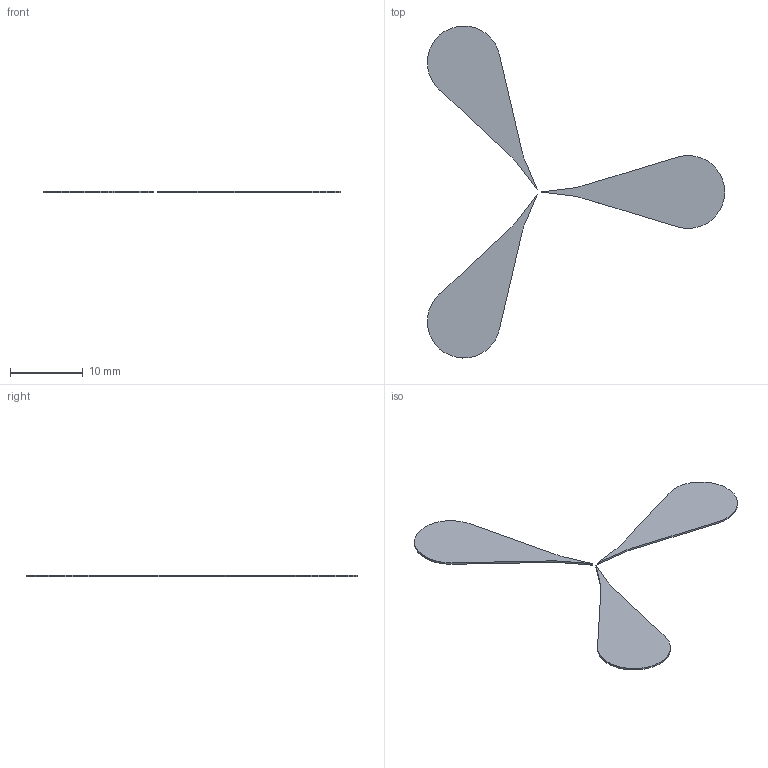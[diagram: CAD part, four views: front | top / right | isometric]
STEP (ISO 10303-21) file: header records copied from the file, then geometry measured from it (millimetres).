
FILE_DESCRIPTION (( 'STEP AP203' ), '1' );
FILE_NAME ('Magnetic poles_new.step', '2026-06-05T03:33:01', ( '' ), ( '' ), 'SwSTEP 2.0', 'SolidWorks 2024', '' );
FILE_SCHEMA (( 'CONFIG_CONTROL_DESIGN' ));
Length unit declared in the file: millimetre
Products named in the file (1): Magnetic poles_new
Bounding box: 40.75 x 45.5 x 0.25 mm (x, y, z)
Volume: 98.2 mm3; surface area: 828.5 mm2
Topology: 3 solids, 3 shells, 33 faces, 81 edges, 54 vertices
Faces by surface type: plane 18, cylinder 15
Entity records: 1058 total; most frequent: DIRECTION 179, CARTESIAN_POINT 169, ORIENTED_EDGE 162, EDGE_CURVE 81, AXIS2_PLACEMENT_3D 64, VERTEX_POINT 54, VECTOR 51, LINE 51
